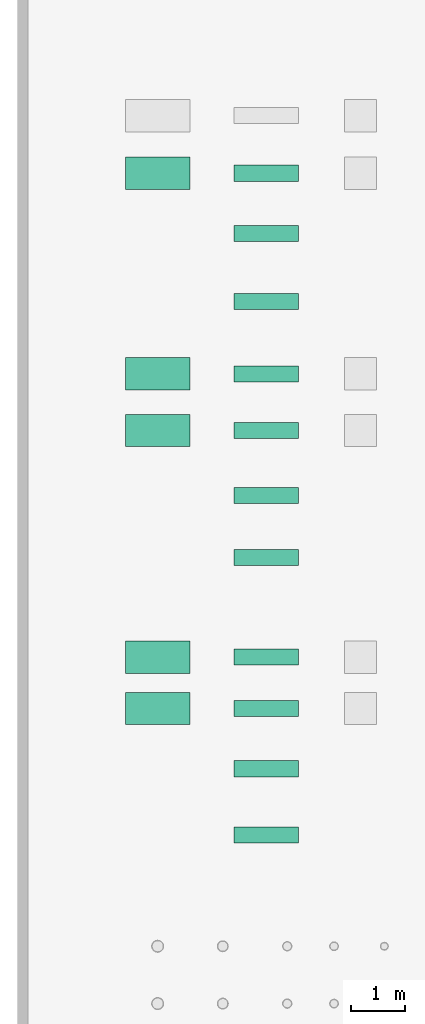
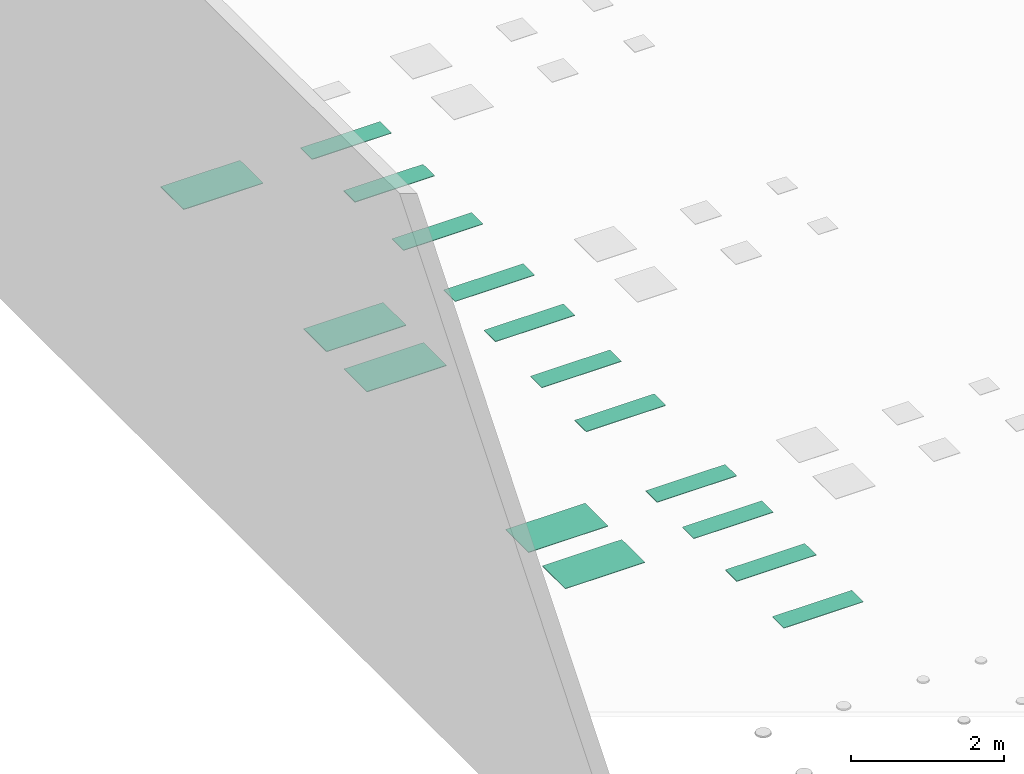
# One storey, part 4 of 197: 16 flow terminals.
"""IFC2X3 building model written with IfcOpenShell, lengths in metres."""

from ifc_helpers import new_model, entity, si_unit, converted_unit, direction, frame, origin, origin_2d_with_axis, place, context, subcontext, project, spatial, polyline, rectangle, circle, outline, extrude, source, transform, mapped, material, type_object, type_shapes, element, save


model = new_model("IFC2X3")

# Units and contexts
model_context = context("Model", 3, precision=1e-05, world=origin(), true_north=direction((6.123031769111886e-17, 1.0)))
body_context = subcontext(model_context, "Body", "Model", "MODEL_VIEW")
ifc_project = project(units=[si_unit("LENGTHUNIT", "METRE"), converted_unit("PLANEANGLEUNIT", "DEGREE", entity("IfcPlaneAngleMeasure", 0.017453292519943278), si_unit("PLANEANGLEUNIT", "RADIAN"), dimensions=[0, 0, 0, 0, 0, 0, 0]), si_unit("AREAUNIT", "SQUARE_METRE")], contexts=[model_context])

# Site, building, storey
site_placement = place(None, origin())
site = spatial("IfcSite", under=ifc_project, at=site_placement, Name="Default", CompositionType="ELEMENT")
building_placement = place(site_placement, origin())
building = spatial("IfcBuilding", under=site, at=building_placement, CompositionType="ELEMENT")
storey_placement = place(building_placement, origin())
storey = spatial("IfcBuildingStorey", under=building, at=storey_placement, Name="Niveau 0", CompositionType="ELEMENT", Elevation=0.0)

# Flow terminals
ifc_material = material(Name="<Unnamed>")
light_fixture_type_1 = type_object("IfcLightFixtureType", Name="Pavé LED encastré_saillie_suspendu:ENCASTRE DALI - 1200X300", PredefinedType="NOTDEFINED", material=ifc_material)
shared_shape_1 = source(origin(), body_context, "Body", "SweptSolid", [
    extrude(rectangle(XDim=1.16, YDim=0.26, at=origin_2d_with_axis()), frame((0.0, 0.0, 1.5013367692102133), z_axis=(0.0, 0.0, 1.0), x_axis=(-1.0, 0.0, 0.0)), (0.0, 0.0, 1.0), 0.008663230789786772),
    extrude(outline(polyline([(-0.6, -0.15), (0.6, -0.15), (0.6, 0.15), (-0.6, 0.15), (-0.6, -0.15)]), holes=[polyline([(0.58, -0.13), (-0.5800000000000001, -0.13), (-0.5800000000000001, 0.13), (0.58, 0.13), (0.58, -0.13)])]), frame((0.0, 0.0, 1.499999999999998), z_axis=(0.0, 0.0, 1.0), x_axis=(-1.0, 0.0, 0.0)), (0.0, 0.0, 1.0), 0.010000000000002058),
    extrude(circle(Radius=0.0014999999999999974, at=origin_2d_with_axis()), frame((0.5899999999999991, -0.14000000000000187, 1.51)), (0.0, 0.0, 1.0), 0.0010000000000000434),
    extrude(circle(Radius=0.0014999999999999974, at=origin_2d_with_axis()), frame((0.5899999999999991, 0.13999999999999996, 1.51)), (0.0, 0.0, 1.0), 0.0010000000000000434),
    extrude(circle(Radius=0.0014999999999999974, at=origin_2d_with_axis()), frame((-0.59, 0.13999999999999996, 1.51)), (0.0, 0.0, 1.0), 0.0010000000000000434),
    extrude(circle(Radius=0.0014999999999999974, at=origin_2d_with_axis()), frame((-0.59, -0.14000000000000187, 1.51)), (0.0, 0.0, 1.0), 0.0010000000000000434),
])
type_shapes(light_fixture_type_1, [shared_shape_1])
flow_terminal_1_placement = place(storey_placement, frame((-535.9987105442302, 46.627355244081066, 0.0)))
element("IfcFlowTerminal", 1, at=flow_terminal_1_placement, inside=storey, type_object=light_fixture_type_1, material=ifc_material, Name="Pavé LED encastré_saillie_suspendu:ENCASTRE DALI - 1200X300", ObjectType="Pavé LED encastré_saillie_suspendu:ENCASTRE DALI - 1200X300", context=body_context, shape_type="MappedRepresentation", body=[
    mapped(shared_shape_1, transform((0.0, 0.0, 0.0), scale=1.0)),
])
light_fixture_type_2 = type_object("IfcLightFixtureType", Name="Pavé LED encastré_saillie_suspendu:ENCASTRE DALI - 1200X600", PredefinedType="NOTDEFINED", material=ifc_material)
shared_shape_2 = source(origin(), body_context, "Body", "SweptSolid", [
    extrude(rectangle(XDim=1.16, YDim=0.56, at=origin_2d_with_axis()), frame((0.0, 0.0, 1.5013367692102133), z_axis=(0.0, 0.0, 1.0), x_axis=(-1.0, 0.0, 0.0)), (0.0, 0.0, 1.0), 0.008663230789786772),
    extrude(outline(polyline([(-0.6, -0.30000000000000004), (0.6, -0.30000000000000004), (0.6, 0.30000000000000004), (-0.6, 0.30000000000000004), (-0.6, -0.30000000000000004)]), holes=[polyline([(0.58, -0.28), (-0.5800000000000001, -0.28), (-0.5800000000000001, 0.28), (0.58, 0.28), (0.58, -0.28)])]), frame((0.0, 0.0, 1.499999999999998), z_axis=(0.0, 0.0, 1.0), x_axis=(-1.0, 0.0, 0.0)), (0.0, 0.0, 1.0), 0.010000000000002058),
    extrude(circle(Radius=0.0014999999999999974, at=origin_2d_with_axis()), frame((0.5899999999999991, -0.2900000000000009, 1.51)), (0.0, 0.0, 1.0), 0.0010000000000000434),
    extrude(circle(Radius=0.0014999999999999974, at=origin_2d_with_axis()), frame((0.5899999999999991, 0.2900000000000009, 1.51)), (0.0, 0.0, 1.0), 0.0010000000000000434),
    extrude(circle(Radius=0.0014999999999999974, at=origin_2d_with_axis()), frame((-0.59, 0.2900000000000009, 1.51)), (0.0, 0.0, 1.0), 0.0010000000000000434),
    extrude(circle(Radius=0.0014999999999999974, at=origin_2d_with_axis()), frame((-0.59, -0.2900000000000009, 1.51)), (0.0, 0.0, 1.0), 0.0010000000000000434),
])
type_shapes(light_fixture_type_2, [shared_shape_2])
flow_terminal_2_placement = place(storey_placement, frame((-538.0227105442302, 46.627355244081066, 0.0)))
element("IfcFlowTerminal", 2, at=flow_terminal_2_placement, inside=storey, type_object=light_fixture_type_2, material=ifc_material, Name="Pavé LED encastré_saillie_suspendu:ENCASTRE DALI - 1200X600", ObjectType="Pavé LED encastré_saillie_suspendu:ENCASTRE DALI - 1200X600", context=body_context, shape_type="MappedRepresentation", body=[
    mapped(shared_shape_2, transform((0.0, 0.0, 0.0), scale=1.0)),
])
light_fixture_type_3 = type_object("IfcLightFixtureType", Name="Pavé LED encastré_saillie_suspendu:SAILLIE - 1200X600", PredefinedType="NOTDEFINED", material=ifc_material)
shared_shape_3 = source(origin(), body_context, "Body", "SweptSolid", [
    extrude(rectangle(XDim=1.16, YDim=0.56, at=origin_2d_with_axis()), frame((0.0, 0.0, 1.5013367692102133), z_axis=(0.0, 0.0, 1.0), x_axis=(-1.0, 0.0, 0.0)), (0.0, 0.0, 1.0), 0.008663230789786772),
    extrude(outline(polyline([(-0.6, -0.30000000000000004), (0.6, -0.30000000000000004), (0.6, 0.30000000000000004), (-0.6, 0.30000000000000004), (-0.6, -0.30000000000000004)]), holes=[polyline([(0.58, -0.28), (-0.5800000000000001, -0.28), (-0.5800000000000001, 0.28), (0.58, 0.28), (0.58, -0.28)])]), frame((0.0, 0.0, 1.499999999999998), z_axis=(0.0, 0.0, 1.0), x_axis=(-1.0, 0.0, 0.0)), (0.0, 0.0, 1.0), 0.010000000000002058),
    extrude(circle(Radius=0.0014999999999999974, at=origin_2d_with_axis()), frame((0.5899999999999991, -0.2900000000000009, 1.51)), (0.0, 0.0, 1.0), 0.0010000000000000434),
    extrude(circle(Radius=0.0014999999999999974, at=origin_2d_with_axis()), frame((0.5899999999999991, 0.2900000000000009, 1.51)), (0.0, 0.0, 1.0), 0.0010000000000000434),
    extrude(circle(Radius=0.0014999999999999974, at=origin_2d_with_axis()), frame((-0.59, 0.2900000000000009, 1.51)), (0.0, 0.0, 1.0), 0.0010000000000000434),
    extrude(circle(Radius=0.0014999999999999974, at=origin_2d_with_axis()), frame((-0.59, -0.2900000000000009, 1.51)), (0.0, 0.0, 1.0), 0.0010000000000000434),
])
type_shapes(light_fixture_type_3, [shared_shape_3])
flow_terminal_3_placement = place(storey_placement, frame((-538.0227105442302, 42.89135524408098, 0.0)))
element("IfcFlowTerminal", 3, at=flow_terminal_3_placement, inside=storey, type_object=light_fixture_type_3, material=ifc_material, Name="Pavé LED encastré_saillie_suspendu:SAILLIE - 1200X600", ObjectType="Pavé LED encastré_saillie_suspendu:SAILLIE - 1200X600", context=body_context, shape_type="MappedRepresentation", body=[
    mapped(shared_shape_3, transform((0.0, 0.0, 0.0), scale=1.0)),
])
light_fixture_type_4 = type_object("IfcLightFixtureType", Name="Pavé LED encastré_saillie_suspendu:SAILLIE - 1200X300", PredefinedType="NOTDEFINED", material=ifc_material)
shared_shape_4 = source(origin(), body_context, "Body", "SweptSolid", [
    extrude(rectangle(XDim=1.16, YDim=0.26, at=origin_2d_with_axis()), frame((0.0, 0.0, 1.5013367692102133), z_axis=(0.0, 0.0, 1.0), x_axis=(-1.0, 0.0, 0.0)), (0.0, 0.0, 1.0), 0.008663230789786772),
    extrude(outline(polyline([(-0.6, -0.15), (0.6, -0.15), (0.6, 0.15), (-0.6, 0.15), (-0.6, -0.15)]), holes=[polyline([(0.58, -0.13), (-0.5800000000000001, -0.13), (-0.5800000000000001, 0.13), (0.58, 0.13), (0.58, -0.13)])]), frame((0.0, 0.0, 1.499999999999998), z_axis=(0.0, 0.0, 1.0), x_axis=(-1.0, 0.0, 0.0)), (0.0, 0.0, 1.0), 0.010000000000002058),
    extrude(circle(Radius=0.0014999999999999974, at=origin_2d_with_axis()), frame((0.5899999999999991, -0.14000000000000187, 1.51)), (0.0, 0.0, 1.0), 0.0010000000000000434),
    extrude(circle(Radius=0.0014999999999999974, at=origin_2d_with_axis()), frame((0.5899999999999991, 0.13999999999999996, 1.51)), (0.0, 0.0, 1.0), 0.0010000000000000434),
    extrude(circle(Radius=0.0014999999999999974, at=origin_2d_with_axis()), frame((-0.59, 0.13999999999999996, 1.51)), (0.0, 0.0, 1.0), 0.0010000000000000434),
    extrude(circle(Radius=0.0014999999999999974, at=origin_2d_with_axis()), frame((-0.59, -0.14000000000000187, 1.51)), (0.0, 0.0, 1.0), 0.0010000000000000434),
])
type_shapes(light_fixture_type_4, [shared_shape_4])
flow_terminal_4_placement = place(storey_placement, frame((-535.9987105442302, 42.89135524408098, 0.0)))
element("IfcFlowTerminal", 4, at=flow_terminal_4_placement, inside=storey, type_object=light_fixture_type_4, material=ifc_material, Name="Pavé LED encastré_saillie_suspendu:SAILLIE - 1200X300", ObjectType="Pavé LED encastré_saillie_suspendu:SAILLIE - 1200X300", context=body_context, shape_type="MappedRepresentation", body=[
    mapped(shared_shape_4, transform((0.0, 0.0, 0.0), scale=1.0)),
])
light_fixture_type_5 = type_object("IfcLightFixtureType", Name="Pavé LED encastré_saillie_suspendu:SAILLIE DALI - 1200X300", PredefinedType="NOTDEFINED", material=ifc_material)
shared_shape_5 = source(origin(), body_context, "Body", "SweptSolid", [
    extrude(rectangle(XDim=1.16, YDim=0.26, at=origin_2d_with_axis()), frame((0.0, 0.0, 1.5013367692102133), z_axis=(0.0, 0.0, 1.0), x_axis=(-1.0, 0.0, 0.0)), (0.0, 0.0, 1.0), 0.008663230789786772),
    extrude(outline(polyline([(-0.6, -0.15), (0.6, -0.15), (0.6, 0.15), (-0.6, 0.15), (-0.6, -0.15)]), holes=[polyline([(0.58, -0.13), (-0.5800000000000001, -0.13), (-0.5800000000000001, 0.13), (0.58, 0.13), (0.58, -0.13)])]), frame((0.0, 0.0, 1.499999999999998), z_axis=(0.0, 0.0, 1.0), x_axis=(-1.0, 0.0, 0.0)), (0.0, 0.0, 1.0), 0.010000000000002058),
    extrude(circle(Radius=0.0014999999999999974, at=origin_2d_with_axis()), frame((0.5899999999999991, -0.14000000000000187, 1.51)), (0.0, 0.0, 1.0), 0.0010000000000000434),
    extrude(circle(Radius=0.0014999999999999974, at=origin_2d_with_axis()), frame((0.5899999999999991, 0.13999999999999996, 1.51)), (0.0, 0.0, 1.0), 0.0010000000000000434),
    extrude(circle(Radius=0.0014999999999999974, at=origin_2d_with_axis()), frame((-0.59, 0.13999999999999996, 1.51)), (0.0, 0.0, 1.0), 0.0010000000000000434),
    extrude(circle(Radius=0.0014999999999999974, at=origin_2d_with_axis()), frame((-0.59, -0.14000000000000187, 1.51)), (0.0, 0.0, 1.0), 0.0010000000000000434),
])
type_shapes(light_fixture_type_5, [shared_shape_5])
flow_terminal_5_placement = place(storey_placement, frame((-535.9987105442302, 41.83535524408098, 0.0)))
element("IfcFlowTerminal", 5, at=flow_terminal_5_placement, inside=storey, type_object=light_fixture_type_5, material=ifc_material, Name="Pavé LED encastré_saillie_suspendu:SAILLIE DALI - 1200X300", ObjectType="Pavé LED encastré_saillie_suspendu:SAILLIE DALI - 1200X300", context=body_context, shape_type="MappedRepresentation", body=[
    mapped(shared_shape_5, transform((0.0, 0.0, 0.0), scale=1.0)),
])
light_fixture_type_6 = type_object("IfcLightFixtureType", Name="Pavé LED encastré_saillie_suspendu:SAILLIE DALI - 1200X600", PredefinedType="NOTDEFINED", material=ifc_material)
shared_shape_6 = source(origin(), body_context, "Body", "SweptSolid", [
    extrude(rectangle(XDim=1.16, YDim=0.56, at=origin_2d_with_axis()), frame((0.0, 0.0, 1.5013367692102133), z_axis=(0.0, 0.0, 1.0), x_axis=(-1.0, 0.0, 0.0)), (0.0, 0.0, 1.0), 0.008663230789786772),
    extrude(outline(polyline([(-0.6, -0.30000000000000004), (0.6, -0.30000000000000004), (0.6, 0.30000000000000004), (-0.6, 0.30000000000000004), (-0.6, -0.30000000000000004)]), holes=[polyline([(0.58, -0.28), (-0.5800000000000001, -0.28), (-0.5800000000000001, 0.28), (0.58, 0.28), (0.58, -0.28)])]), frame((0.0, 0.0, 1.499999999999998), z_axis=(0.0, 0.0, 1.0), x_axis=(-1.0, 0.0, 0.0)), (0.0, 0.0, 1.0), 0.010000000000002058),
    extrude(circle(Radius=0.0014999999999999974, at=origin_2d_with_axis()), frame((0.5899999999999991, -0.2900000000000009, 1.51)), (0.0, 0.0, 1.0), 0.0010000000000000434),
    extrude(circle(Radius=0.0014999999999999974, at=origin_2d_with_axis()), frame((0.5899999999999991, 0.2900000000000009, 1.51)), (0.0, 0.0, 1.0), 0.0010000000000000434),
    extrude(circle(Radius=0.0014999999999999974, at=origin_2d_with_axis()), frame((-0.59, 0.2900000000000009, 1.51)), (0.0, 0.0, 1.0), 0.0010000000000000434),
    extrude(circle(Radius=0.0014999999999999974, at=origin_2d_with_axis()), frame((-0.59, -0.2900000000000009, 1.51)), (0.0, 0.0, 1.0), 0.0010000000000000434),
])
type_shapes(light_fixture_type_6, [shared_shape_6])
flow_terminal_6_placement = place(storey_placement, frame((-538.0227105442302, 41.83535524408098, 0.0)))
element("IfcFlowTerminal", 6, at=flow_terminal_6_placement, inside=storey, type_object=light_fixture_type_6, material=ifc_material, Name="Pavé LED encastré_saillie_suspendu:SAILLIE DALI - 1200X600", ObjectType="Pavé LED encastré_saillie_suspendu:SAILLIE DALI - 1200X600", context=body_context, shape_type="MappedRepresentation", body=[
    mapped(shared_shape_6, transform((0.0, 0.0, 0.0), scale=1.0)),
])
light_fixture_type_7 = type_object("IfcLightFixtureType", Name="Pavé LED encastré_saillie_suspendu:SUSPENDU - 1200X300", PredefinedType="NOTDEFINED", material=ifc_material)
shared_shape_7 = source(origin(), body_context, "Body", "SweptSolid", [
    extrude(rectangle(XDim=1.16, YDim=0.26, at=origin_2d_with_axis()), frame((0.0, 0.0, 1.5013367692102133), z_axis=(0.0, 0.0, 1.0), x_axis=(-1.0, 0.0, 0.0)), (0.0, 0.0, 1.0), 0.008663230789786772),
    extrude(outline(polyline([(-0.6, -0.15), (0.6, -0.15), (0.6, 0.15), (-0.6, 0.15), (-0.6, -0.15)]), holes=[polyline([(0.58, -0.13), (-0.5800000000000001, -0.13), (-0.5800000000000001, 0.13), (0.58, 0.13), (0.58, -0.13)])]), frame((0.0, 0.0, 1.499999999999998), z_axis=(0.0, 0.0, 1.0), x_axis=(-1.0, 0.0, 0.0)), (0.0, 0.0, 1.0), 0.010000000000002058),
    extrude(circle(Radius=0.0014999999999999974, at=origin_2d_with_axis()), frame((0.5899999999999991, -0.14000000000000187, 1.51)), (0.0, 0.0, 1.0), 0.0010000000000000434),
    extrude(circle(Radius=0.0014999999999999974, at=origin_2d_with_axis()), frame((0.5899999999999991, 0.13999999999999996, 1.51)), (0.0, 0.0, 1.0), 0.0010000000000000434),
    extrude(circle(Radius=0.0014999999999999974, at=origin_2d_with_axis()), frame((-0.59, 0.13999999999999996, 1.51)), (0.0, 0.0, 1.0), 0.0010000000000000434),
    extrude(circle(Radius=0.0014999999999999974, at=origin_2d_with_axis()), frame((-0.59, -0.14000000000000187, 1.51)), (0.0, 0.0, 1.0), 0.0010000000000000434),
])
type_shapes(light_fixture_type_7, [shared_shape_7])
flow_terminal_7_placement = place(storey_placement, frame((-535.9987105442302, 37.61435524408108, 0.0)))
element("IfcFlowTerminal", 7, at=flow_terminal_7_placement, inside=storey, type_object=light_fixture_type_7, material=ifc_material, Name="Pavé LED encastré_saillie_suspendu:SUSPENDU - 1200X300", ObjectType="Pavé LED encastré_saillie_suspendu:SUSPENDU - 1200X300", context=body_context, shape_type="MappedRepresentation", body=[
    mapped(shared_shape_7, transform((0.0, 0.0, 0.0), scale=1.0)),
])
light_fixture_type_8 = type_object("IfcLightFixtureType", Name="Pavé LED encastré_saillie_suspendu:SUSPENDU - 1200X600", PredefinedType="NOTDEFINED", material=ifc_material)
shared_shape_8 = source(origin(), body_context, "Body", "SweptSolid", [
    extrude(rectangle(XDim=1.16, YDim=0.56, at=origin_2d_with_axis()), frame((0.0, 0.0, 1.5013367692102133), z_axis=(0.0, 0.0, 1.0), x_axis=(-1.0, 0.0, 0.0)), (0.0, 0.0, 1.0), 0.008663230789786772),
    extrude(outline(polyline([(-0.6, -0.30000000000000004), (0.6, -0.30000000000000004), (0.6, 0.30000000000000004), (-0.6, 0.30000000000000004), (-0.6, -0.30000000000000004)]), holes=[polyline([(0.58, -0.28), (-0.5800000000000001, -0.28), (-0.5800000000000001, 0.28), (0.58, 0.28), (0.58, -0.28)])]), frame((0.0, 0.0, 1.499999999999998), z_axis=(0.0, 0.0, 1.0), x_axis=(-1.0, 0.0, 0.0)), (0.0, 0.0, 1.0), 0.010000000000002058),
    extrude(circle(Radius=0.0014999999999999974, at=origin_2d_with_axis()), frame((0.5899999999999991, -0.2900000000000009, 1.51)), (0.0, 0.0, 1.0), 0.0010000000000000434),
    extrude(circle(Radius=0.0014999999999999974, at=origin_2d_with_axis()), frame((0.5899999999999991, 0.2900000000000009, 1.51)), (0.0, 0.0, 1.0), 0.0010000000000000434),
    extrude(circle(Radius=0.0014999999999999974, at=origin_2d_with_axis()), frame((-0.59, 0.2900000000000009, 1.51)), (0.0, 0.0, 1.0), 0.0010000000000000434),
    extrude(circle(Radius=0.0014999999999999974, at=origin_2d_with_axis()), frame((-0.59, -0.2900000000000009, 1.51)), (0.0, 0.0, 1.0), 0.0010000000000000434),
])
type_shapes(light_fixture_type_8, [shared_shape_8])
flow_terminal_8_placement = place(storey_placement, frame((-538.0227105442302, 37.61435524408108, 0.0)))
element("IfcFlowTerminal", 8, at=flow_terminal_8_placement, inside=storey, type_object=light_fixture_type_8, material=ifc_material, Name="Pavé LED encastré_saillie_suspendu:SUSPENDU - 1200X600", ObjectType="Pavé LED encastré_saillie_suspendu:SUSPENDU - 1200X600", context=body_context, shape_type="MappedRepresentation", body=[
    mapped(shared_shape_8, transform((0.0, 0.0, 0.0), scale=1.0)),
])
light_fixture_type_9 = type_object("IfcLightFixtureType", Name="Pavé LED encastré_saillie_suspendu:SUSPENDU DALI - 1200X300", PredefinedType="NOTDEFINED", material=ifc_material)
shared_shape_9 = source(origin(), body_context, "Body", "SweptSolid", [
    extrude(rectangle(XDim=1.16, YDim=0.26, at=origin_2d_with_axis()), frame((0.0, 0.0, 1.5013367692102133), z_axis=(0.0, 0.0, 1.0), x_axis=(-1.0, 0.0, 0.0)), (0.0, 0.0, 1.0), 0.008663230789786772),
    extrude(outline(polyline([(-0.6, -0.15), (0.6, -0.15), (0.6, 0.15), (-0.6, 0.15), (-0.6, -0.15)]), holes=[polyline([(0.58, -0.13), (-0.5800000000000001, -0.13), (-0.5800000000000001, 0.13), (0.58, 0.13), (0.58, -0.13)])]), frame((0.0, 0.0, 1.499999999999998), z_axis=(0.0, 0.0, 1.0), x_axis=(-1.0, 0.0, 0.0)), (0.0, 0.0, 1.0), 0.010000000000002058),
    extrude(circle(Radius=0.0014999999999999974, at=origin_2d_with_axis()), frame((0.5899999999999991, -0.14000000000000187, 1.51)), (0.0, 0.0, 1.0), 0.0010000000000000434),
    extrude(circle(Radius=0.0014999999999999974, at=origin_2d_with_axis()), frame((0.5899999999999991, 0.13999999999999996, 1.51)), (0.0, 0.0, 1.0), 0.0010000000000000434),
    extrude(circle(Radius=0.0014999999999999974, at=origin_2d_with_axis()), frame((-0.59, 0.13999999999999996, 1.51)), (0.0, 0.0, 1.0), 0.0010000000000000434),
    extrude(circle(Radius=0.0014999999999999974, at=origin_2d_with_axis()), frame((-0.59, -0.14000000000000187, 1.51)), (0.0, 0.0, 1.0), 0.0010000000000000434),
])
type_shapes(light_fixture_type_9, [shared_shape_9])
flow_terminal_9_placement = place(storey_placement, frame((-535.9987105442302, 36.65835524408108, 0.0)))
element("IfcFlowTerminal", 9, at=flow_terminal_9_placement, inside=storey, type_object=light_fixture_type_9, material=ifc_material, Name="Pavé LED encastré_saillie_suspendu:SUSPENDU DALI - 1200X300", ObjectType="Pavé LED encastré_saillie_suspendu:SUSPENDU DALI - 1200X300", context=body_context, shape_type="MappedRepresentation", body=[
    mapped(shared_shape_9, transform((0.0, 0.0, 0.0), scale=1.0)),
])
light_fixture_type_10 = type_object("IfcLightFixtureType", Name="Pavé LED encastré_saillie_suspendu:SUSPENDU DALI - 1200X600", PredefinedType="NOTDEFINED", material=ifc_material)
shared_shape_10 = source(origin(), body_context, "Body", "SweptSolid", [
    extrude(rectangle(XDim=1.16, YDim=0.56, at=origin_2d_with_axis()), frame((0.0, 0.0, 1.5013367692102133), z_axis=(0.0, 0.0, 1.0), x_axis=(-1.0, 0.0, 0.0)), (0.0, 0.0, 1.0), 0.008663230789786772),
    extrude(outline(polyline([(-0.6, -0.30000000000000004), (0.6, -0.30000000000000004), (0.6, 0.30000000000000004), (-0.6, 0.30000000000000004), (-0.6, -0.30000000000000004)]), holes=[polyline([(0.58, -0.28), (-0.5800000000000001, -0.28), (-0.5800000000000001, 0.28), (0.58, 0.28), (0.58, -0.28)])]), frame((0.0, 0.0, 1.499999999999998), z_axis=(0.0, 0.0, 1.0), x_axis=(-1.0, 0.0, 0.0)), (0.0, 0.0, 1.0), 0.010000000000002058),
    extrude(circle(Radius=0.0014999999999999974, at=origin_2d_with_axis()), frame((0.5899999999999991, -0.2900000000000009, 1.51)), (0.0, 0.0, 1.0), 0.0010000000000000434),
    extrude(circle(Radius=0.0014999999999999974, at=origin_2d_with_axis()), frame((0.5899999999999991, 0.2900000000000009, 1.51)), (0.0, 0.0, 1.0), 0.0010000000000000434),
    extrude(circle(Radius=0.0014999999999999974, at=origin_2d_with_axis()), frame((-0.59, 0.2900000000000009, 1.51)), (0.0, 0.0, 1.0), 0.0010000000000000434),
    extrude(circle(Radius=0.0014999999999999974, at=origin_2d_with_axis()), frame((-0.59, -0.2900000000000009, 1.51)), (0.0, 0.0, 1.0), 0.0010000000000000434),
])
type_shapes(light_fixture_type_10, [shared_shape_10])
flow_terminal_10_placement = place(storey_placement, frame((-538.0227107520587, 36.65835524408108, 0.0)))
element("IfcFlowTerminal", 10, at=flow_terminal_10_placement, inside=storey, type_object=light_fixture_type_10, material=ifc_material, Name="Pavé LED encastré_saillie_suspendu:SUSPENDU DALI - 1200X600", ObjectType="Pavé LED encastré_saillie_suspendu:SUSPENDU DALI - 1200X600", context=body_context, shape_type="MappedRepresentation", body=[
    mapped(shared_shape_10, transform((0.0, 0.0, 0.0), scale=1.0)),
])
light_fixture_type_11 = type_object("IfcLightFixtureType", Name="Pavé LED encastré_saillie_suspendu:ENCASTRE ASYMETRIQUE - 1200X300", PredefinedType="NOTDEFINED", material=ifc_material)
shared_shape_11 = source(origin(), body_context, "Body", "SweptSolid", [
    extrude(rectangle(XDim=1.16, YDim=0.26, at=origin_2d_with_axis()), frame((0.0, 0.0, 1.5013367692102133), z_axis=(0.0, 0.0, 1.0), x_axis=(-1.0, 0.0, 0.0)), (0.0, 0.0, 1.0), 0.008663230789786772),
    extrude(outline(polyline([(-0.6, -0.15), (0.6, -0.15), (0.6, 0.15), (-0.6, 0.15), (-0.6, -0.15)]), holes=[polyline([(0.58, -0.13), (-0.5800000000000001, -0.13), (-0.5800000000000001, 0.13), (0.58, 0.13), (0.58, -0.13)])]), frame((0.0, 0.0, 1.499999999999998), z_axis=(0.0, 0.0, 1.0), x_axis=(-1.0, 0.0, 0.0)), (0.0, 0.0, 1.0), 0.010000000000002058),
    extrude(circle(Radius=0.0014999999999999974, at=origin_2d_with_axis()), frame((0.5899999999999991, -0.14000000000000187, 1.51)), (0.0, 0.0, 1.0), 0.0010000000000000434),
    extrude(circle(Radius=0.0014999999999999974, at=origin_2d_with_axis()), frame((0.5899999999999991, 0.13999999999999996, 1.51)), (0.0, 0.0, 1.0), 0.0010000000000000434),
    extrude(circle(Radius=0.0014999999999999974, at=origin_2d_with_axis()), frame((-0.59, 0.13999999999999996, 1.51)), (0.0, 0.0, 1.0), 0.0010000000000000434),
    extrude(circle(Radius=0.0014999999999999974, at=origin_2d_with_axis()), frame((-0.59, -0.14000000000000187, 1.51)), (0.0, 0.0, 1.0), 0.0010000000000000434),
])
type_shapes(light_fixture_type_11, [shared_shape_11])
flow_terminal_11_placement = place(storey_placement, frame((-535.9987105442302, 45.504355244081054, 0.0)))
element("IfcFlowTerminal", 11, at=flow_terminal_11_placement, inside=storey, type_object=light_fixture_type_11, material=ifc_material, Name="Pavé LED encastré_saillie_suspendu:ENCASTRE ASYMETRIQUE - 1200X300", ObjectType="Pavé LED encastré_saillie_suspendu:ENCASTRE ASYMETRIQUE - 1200X300", context=body_context, shape_type="MappedRepresentation", body=[
    mapped(shared_shape_11, transform((0.0, 0.0, 0.0), scale=1.0)),
])
light_fixture_type_12 = type_object("IfcLightFixtureType", Name="Pavé LED encastré_saillie_suspendu:ENCASTRE ASYMETRIQUE DALI - 1200X300", PredefinedType="NOTDEFINED", material=ifc_material)
shared_shape_12 = source(origin(), body_context, "Body", "SweptSolid", [
    extrude(rectangle(XDim=1.16, YDim=0.26, at=origin_2d_with_axis()), frame((0.0, 0.0, 1.5013367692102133), z_axis=(0.0, 0.0, 1.0), x_axis=(-1.0, 0.0, 0.0)), (0.0, 0.0, 1.0), 0.008663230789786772),
    extrude(outline(polyline([(-0.6, -0.15), (0.6, -0.15), (0.6, 0.15), (-0.6, 0.15), (-0.6, -0.15)]), holes=[polyline([(0.58, -0.13), (-0.5800000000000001, -0.13), (-0.5800000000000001, 0.13), (0.58, 0.13), (0.58, -0.13)])]), frame((0.0, 0.0, 1.499999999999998), z_axis=(0.0, 0.0, 1.0), x_axis=(-1.0, 0.0, 0.0)), (0.0, 0.0, 1.0), 0.010000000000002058),
    extrude(circle(Radius=0.0014999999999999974, at=origin_2d_with_axis()), frame((0.5899999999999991, -0.14000000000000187, 1.51)), (0.0, 0.0, 1.0), 0.0010000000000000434),
    extrude(circle(Radius=0.0014999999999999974, at=origin_2d_with_axis()), frame((0.5899999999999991, 0.13999999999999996, 1.51)), (0.0, 0.0, 1.0), 0.0010000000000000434),
    extrude(circle(Radius=0.0014999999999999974, at=origin_2d_with_axis()), frame((-0.59, 0.13999999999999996, 1.51)), (0.0, 0.0, 1.0), 0.0010000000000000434),
    extrude(circle(Radius=0.0014999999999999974, at=origin_2d_with_axis()), frame((-0.59, -0.14000000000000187, 1.51)), (0.0, 0.0, 1.0), 0.0010000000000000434),
])
type_shapes(light_fixture_type_12, [shared_shape_12])
flow_terminal_12_placement = place(storey_placement, frame((-535.9987105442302, 44.236355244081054, 0.0)))
element("IfcFlowTerminal", 12, at=flow_terminal_12_placement, inside=storey, type_object=light_fixture_type_12, material=ifc_material, Name="Pavé LED encastré_saillie_suspendu:ENCASTRE ASYMETRIQUE DALI - 1200X300", ObjectType="Pavé LED encastré_saillie_suspendu:ENCASTRE ASYMETRIQUE DALI - 1200X300", context=body_context, shape_type="MappedRepresentation", body=[
    mapped(shared_shape_12, transform((0.0, 0.0, 0.0), scale=1.0)),
])
light_fixture_type_13 = type_object("IfcLightFixtureType", Name="Pavé LED encastré_saillie_suspendu:SAILLIE ASYMETRIQUE - 1200X300", PredefinedType="NOTDEFINED", material=ifc_material)
shared_shape_13 = source(origin(), body_context, "Body", "SweptSolid", [
    extrude(rectangle(XDim=1.16, YDim=0.26, at=origin_2d_with_axis()), frame((0.0, 0.0, 1.5013367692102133), z_axis=(0.0, 0.0, 1.0), x_axis=(-1.0, 0.0, 0.0)), (0.0, 0.0, 1.0), 0.008663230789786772),
    extrude(outline(polyline([(-0.6, -0.15), (0.6, -0.15), (0.6, 0.15), (-0.6, 0.15), (-0.6, -0.15)]), holes=[polyline([(0.58, -0.13), (-0.5800000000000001, -0.13), (-0.5800000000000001, 0.13), (0.58, 0.13), (0.58, -0.13)])]), frame((0.0, 0.0, 1.499999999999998), z_axis=(0.0, 0.0, 1.0), x_axis=(-1.0, 0.0, 0.0)), (0.0, 0.0, 1.0), 0.010000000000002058),
    extrude(circle(Radius=0.0014999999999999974, at=origin_2d_with_axis()), frame((0.5899999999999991, -0.14000000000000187, 1.51)), (0.0, 0.0, 1.0), 0.0010000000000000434),
    extrude(circle(Radius=0.0014999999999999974, at=origin_2d_with_axis()), frame((0.5899999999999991, 0.13999999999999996, 1.51)), (0.0, 0.0, 1.0), 0.0010000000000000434),
    extrude(circle(Radius=0.0014999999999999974, at=origin_2d_with_axis()), frame((-0.59, 0.13999999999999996, 1.51)), (0.0, 0.0, 1.0), 0.0010000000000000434),
    extrude(circle(Radius=0.0014999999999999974, at=origin_2d_with_axis()), frame((-0.59, -0.14000000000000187, 1.51)), (0.0, 0.0, 1.0), 0.0010000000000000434),
])
type_shapes(light_fixture_type_13, [shared_shape_13])
flow_terminal_13_placement = place(storey_placement, frame((-535.9987105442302, 40.62535524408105, 0.0)))
element("IfcFlowTerminal", 13, at=flow_terminal_13_placement, inside=storey, type_object=light_fixture_type_13, material=ifc_material, Name="Pavé LED encastré_saillie_suspendu:SAILLIE ASYMETRIQUE - 1200X300", ObjectType="Pavé LED encastré_saillie_suspendu:SAILLIE ASYMETRIQUE - 1200X300", context=body_context, shape_type="MappedRepresentation", body=[
    mapped(shared_shape_13, transform((0.0, 0.0, 0.0), scale=1.0)),
])
light_fixture_type_14 = type_object("IfcLightFixtureType", Name="Pavé LED encastré_saillie_suspendu:SAILLIE DALI ASYMETRIQUE - 1200X300", PredefinedType="NOTDEFINED", material=ifc_material)
shared_shape_14 = source(origin(), body_context, "Body", "SweptSolid", [
    extrude(rectangle(XDim=1.16, YDim=0.26, at=origin_2d_with_axis()), frame((0.0, 0.0, 1.5013367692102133), z_axis=(0.0, 0.0, 1.0), x_axis=(-1.0, 0.0, 0.0)), (0.0, 0.0, 1.0), 0.008663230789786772),
    extrude(outline(polyline([(-0.6, -0.15), (0.6, -0.15), (0.6, 0.15), (-0.6, 0.15), (-0.6, -0.15)]), holes=[polyline([(0.58, -0.13), (-0.5800000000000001, -0.13), (-0.5800000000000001, 0.13), (0.58, 0.13), (0.58, -0.13)])]), frame((0.0, 0.0, 1.499999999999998), z_axis=(0.0, 0.0, 1.0), x_axis=(-1.0, 0.0, 0.0)), (0.0, 0.0, 1.0), 0.010000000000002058),
    extrude(circle(Radius=0.0014999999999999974, at=origin_2d_with_axis()), frame((0.5899999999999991, -0.14000000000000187, 1.51)), (0.0, 0.0, 1.0), 0.0010000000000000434),
    extrude(circle(Radius=0.0014999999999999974, at=origin_2d_with_axis()), frame((0.5899999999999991, 0.13999999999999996, 1.51)), (0.0, 0.0, 1.0), 0.0010000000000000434),
    extrude(circle(Radius=0.0014999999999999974, at=origin_2d_with_axis()), frame((-0.59, 0.13999999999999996, 1.51)), (0.0, 0.0, 1.0), 0.0010000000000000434),
    extrude(circle(Radius=0.0014999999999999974, at=origin_2d_with_axis()), frame((-0.59, -0.14000000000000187, 1.51)), (0.0, 0.0, 1.0), 0.0010000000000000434),
])
type_shapes(light_fixture_type_14, [shared_shape_14])
flow_terminal_14_placement = place(storey_placement, frame((-535.9987105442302, 39.46835524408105, 0.0)))
element("IfcFlowTerminal", 14, at=flow_terminal_14_placement, inside=storey, type_object=light_fixture_type_14, material=ifc_material, Name="Pavé LED encastré_saillie_suspendu:SAILLIE DALI ASYMETRIQUE - 1200X300", ObjectType="Pavé LED encastré_saillie_suspendu:SAILLIE DALI ASYMETRIQUE - 1200X300", context=body_context, shape_type="MappedRepresentation", body=[
    mapped(shared_shape_14, transform((0.0, 0.0, 0.0), scale=1.0)),
])
light_fixture_type_15 = type_object("IfcLightFixtureType", Name="Pavé LED encastré_saillie_suspendu:SUSPENDU ASYMETRIQUE - 1200X300", PredefinedType="NOTDEFINED", material=ifc_material)
shared_shape_15 = source(origin(), body_context, "Body", "SweptSolid", [
    extrude(rectangle(XDim=1.16, YDim=0.26, at=origin_2d_with_axis()), frame((0.0, 0.0, 1.5013367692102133), z_axis=(0.0, 0.0, 1.0), x_axis=(-1.0, 0.0, 0.0)), (0.0, 0.0, 1.0), 0.008663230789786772),
    extrude(outline(polyline([(-0.6, -0.15), (0.6, -0.15), (0.6, 0.15), (-0.6, 0.15), (-0.6, -0.15)]), holes=[polyline([(0.58, -0.13), (-0.5800000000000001, -0.13), (-0.5800000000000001, 0.13), (0.58, 0.13), (0.58, -0.13)])]), frame((0.0, 0.0, 1.499999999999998), z_axis=(0.0, 0.0, 1.0), x_axis=(-1.0, 0.0, 0.0)), (0.0, 0.0, 1.0), 0.010000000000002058),
    extrude(circle(Radius=0.0014999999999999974, at=origin_2d_with_axis()), frame((0.5899999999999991, -0.14000000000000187, 1.51)), (0.0, 0.0, 1.0), 0.0010000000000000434),
    extrude(circle(Radius=0.0014999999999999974, at=origin_2d_with_axis()), frame((0.5899999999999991, 0.13999999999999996, 1.51)), (0.0, 0.0, 1.0), 0.0010000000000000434),
    extrude(circle(Radius=0.0014999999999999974, at=origin_2d_with_axis()), frame((-0.59, 0.13999999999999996, 1.51)), (0.0, 0.0, 1.0), 0.0010000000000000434),
    extrude(circle(Radius=0.0014999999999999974, at=origin_2d_with_axis()), frame((-0.59, -0.14000000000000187, 1.51)), (0.0, 0.0, 1.0), 0.0010000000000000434),
])
type_shapes(light_fixture_type_15, [shared_shape_15])
flow_terminal_15_placement = place(storey_placement, frame((-535.9987105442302, 35.53535524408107, 0.0)))
element("IfcFlowTerminal", 15, at=flow_terminal_15_placement, inside=storey, type_object=light_fixture_type_15, material=ifc_material, Name="Pavé LED encastré_saillie_suspendu:SUSPENDU ASYMETRIQUE - 1200X300", ObjectType="Pavé LED encastré_saillie_suspendu:SUSPENDU ASYMETRIQUE - 1200X300", context=body_context, shape_type="MappedRepresentation", body=[
    mapped(shared_shape_15, transform((0.0, 0.0, 0.0), scale=1.0)),
])
light_fixture_type_16 = type_object("IfcLightFixtureType", Name="Pavé LED encastré_saillie_suspendu:SUSPENDU DALI ASYMETRIQUE - 1200X300", PredefinedType="NOTDEFINED", material=ifc_material)
shared_shape_16 = source(origin(), body_context, "Body", "SweptSolid", [
    extrude(rectangle(XDim=1.16, YDim=0.26, at=origin_2d_with_axis()), frame((0.0, 0.0, 1.5013367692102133), z_axis=(0.0, 0.0, 1.0), x_axis=(-1.0, 0.0, 0.0)), (0.0, 0.0, 1.0), 0.008663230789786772),
    extrude(outline(polyline([(-0.6, -0.15), (0.6, -0.15), (0.6, 0.15), (-0.6, 0.15), (-0.6, -0.15)]), holes=[polyline([(0.58, -0.13), (-0.5800000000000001, -0.13), (-0.5800000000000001, 0.13), (0.58, 0.13), (0.58, -0.13)])]), frame((0.0, 0.0, 1.499999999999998), z_axis=(0.0, 0.0, 1.0), x_axis=(-1.0, 0.0, 0.0)), (0.0, 0.0, 1.0), 0.010000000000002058),
    extrude(circle(Radius=0.0014999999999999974, at=origin_2d_with_axis()), frame((0.5899999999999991, -0.14000000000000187, 1.51)), (0.0, 0.0, 1.0), 0.0010000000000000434),
    extrude(circle(Radius=0.0014999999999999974, at=origin_2d_with_axis()), frame((0.5899999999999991, 0.13999999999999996, 1.51)), (0.0, 0.0, 1.0), 0.0010000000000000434),
    extrude(circle(Radius=0.0014999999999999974, at=origin_2d_with_axis()), frame((-0.59, 0.13999999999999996, 1.51)), (0.0, 0.0, 1.0), 0.0010000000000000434),
    extrude(circle(Radius=0.0014999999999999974, at=origin_2d_with_axis()), frame((-0.59, -0.14000000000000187, 1.51)), (0.0, 0.0, 1.0), 0.0010000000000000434),
])
type_shapes(light_fixture_type_16, [shared_shape_16])
flow_terminal_16_placement = place(storey_placement, frame((-535.9987105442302, 34.305355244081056, 0.0)))
element("IfcFlowTerminal", 16, at=flow_terminal_16_placement, inside=storey, type_object=light_fixture_type_16, material=ifc_material, Name="Pavé LED encastré_saillie_suspendu:SUSPENDU DALI ASYMETRIQUE - 1200X300", ObjectType="Pavé LED encastré_saillie_suspendu:SUSPENDU DALI ASYMETRIQUE - 1200X300", context=body_context, shape_type="MappedRepresentation", body=[
    mapped(shared_shape_16, transform((0.0, 0.0, 0.0), scale=1.0)),
])

save(model, "model.ifc")
